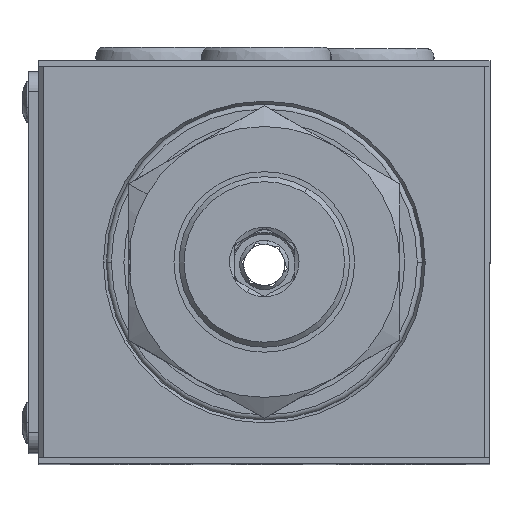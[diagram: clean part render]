
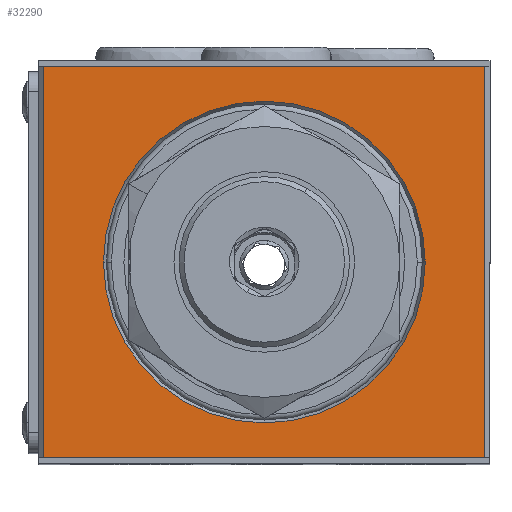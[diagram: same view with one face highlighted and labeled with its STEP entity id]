
A CAD part, top view. The second image highlights one B-rep face of the part: STEP entity #32290.
In plain terms, the highlighted planar face has unit normal (0, 0, 1).
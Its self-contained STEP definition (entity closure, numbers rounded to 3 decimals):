
#322 = VECTOR ( 'NONE', #57672, 1000. ) ;
#1422 = VERTEX_POINT ( 'NONE', #50655 ) ;
#4456 = CARTESIAN_POINT ( 'NONE',  ( 22., 19.5, 91.5 ) ) ;
#7950 = FACE_BOUND ( 'NONE', #24317, .T. ) ;
#8165 = ORIENTED_EDGE ( 'NONE', *, *, #54811, .T. ) ;
#8338 = CARTESIAN_POINT ( 'NONE',  ( 0., 0., 91.5 ) ) ;
#8591 = VERTEX_POINT ( 'NONE', #12679 ) ;
#9706 = CARTESIAN_POINT ( 'NONE',  ( -22.5, 20.1, 91.5 ) ) ;
#10013 = AXIS2_PLACEMENT_3D ( 'NONE', #8338, #43983, #26505 ) ;
#12231 = DIRECTION ( 'NONE',  ( 0., 0., -1. ) ) ;
#12679 = CARTESIAN_POINT ( 'NONE',  ( 16.039, 0., 91.5 ) ) ;
#15844 = EDGE_CURVE ( 'NONE', #8591, #28722, #18017, .T. ) ;
#16514 = VERTEX_POINT ( 'NONE', #70004 ) ;
#17664 = LINE ( 'NONE', #33093, #55873 ) ;
#18017 = CIRCLE ( 'NONE', #54365, 16.039 ) ;
#18220 = DIRECTION ( 'NONE',  ( -1., 0., 0. ) ) ;
#18744 = ORIENTED_EDGE ( 'NONE', *, *, #38258, .F. ) ;
#24317 = EDGE_LOOP ( 'NONE', ( #8165, #58916 ) ) ;
#25900 = ORIENTED_EDGE ( 'NONE', *, *, #66529, .T. ) ;
#26505 = DIRECTION ( 'NONE',  ( -1., 0., 0. ) ) ;
#28722 = VERTEX_POINT ( 'NONE', #51869 ) ;
#29251 = LINE ( 'NONE', #40612, #67533 ) ;
#32290 = ADVANCED_FACE ( 'NONE', ( #7950, #35890 ), #40392, .T. ) ;
#33093 = CARTESIAN_POINT ( 'NONE',  ( 22., 20.1, 91.5 ) ) ;
#33345 = DIRECTION ( 'NONE',  ( 0., 0., 1. ) ) ;
#33836 = DIRECTION ( 'NONE',  ( -1., 0., 0. ) ) ;
#34579 = EDGE_LOOP ( 'NONE', ( #25900, #36430, #18744, #46060 ) ) ;
#35890 = FACE_OUTER_BOUND ( 'NONE', #34579, .T. ) ;
#36430 = ORIENTED_EDGE ( 'NONE', *, *, #54459, .T. ) ;
#38258 = EDGE_CURVE ( 'NONE', #16514, #1422, #45719, .T. ) ;
#39636 = DIRECTION ( 'NONE',  ( 0., 1., 0. ) ) ;
#39923 = CARTESIAN_POINT ( 'NONE',  ( -22., 20.1, 91.5 ) ) ;
#40392 = PLANE ( 'NONE',  #67878 ) ;
#40612 = CARTESIAN_POINT ( 'NONE',  ( 40.31, 19.5, 91.5 ) ) ;
#41466 = CARTESIAN_POINT ( 'NONE',  ( -22., 19.5, 91.5 ) ) ;
#42111 = VERTEX_POINT ( 'NONE', #41466 ) ;
#43983 = DIRECTION ( 'NONE',  ( 0., 0., -1. ) ) ;
#45719 = LINE ( 'NONE', #74526, #76494 ) ;
#46060 = ORIENTED_EDGE ( 'NONE', *, *, #64902, .T. ) ;
#50655 = CARTESIAN_POINT ( 'NONE',  ( -22., -19.5, 91.5 ) ) ;
#51869 = CARTESIAN_POINT ( 'NONE',  ( -16.039, 0., 91.5 ) ) ;
#54302 = LINE ( 'NONE', #39923, #322 ) ;
#54365 = AXIS2_PLACEMENT_3D ( 'NONE', #65470, #12231, #18220 ) ;
#54459 = EDGE_CURVE ( 'NONE', #42111, #1422, #54302, .T. ) ;
#54811 = EDGE_CURVE ( 'NONE', #28722, #8591, #64548, .T. ) ;
#55873 = VECTOR ( 'NONE', #39636, 1000. ) ;
#57672 = DIRECTION ( 'NONE',  ( 0., -1., 0. ) ) ;
#58916 = ORIENTED_EDGE ( 'NONE', *, *, #15844, .T. ) ;
#60470 = VERTEX_POINT ( 'NONE', #4456 ) ;
#64548 = CIRCLE ( 'NONE', #10013, 16.039 ) ;
#64652 = DIRECTION ( 'NONE',  ( -1., 0., 0. ) ) ;
#64902 = EDGE_CURVE ( 'NONE', #16514, #60470, #17664, .T. ) ;
#65470 = CARTESIAN_POINT ( 'NONE',  ( 0., 0., 91.5 ) ) ;
#66529 = EDGE_CURVE ( 'NONE', #60470, #42111, #29251, .T. ) ;
#67533 = VECTOR ( 'NONE', #64652, 1000. ) ;
#67878 = AXIS2_PLACEMENT_3D ( 'NONE', #9706, #33345, #75367 ) ;
#70004 = CARTESIAN_POINT ( 'NONE',  ( 22., -19.5, 91.5 ) ) ;
#74526 = CARTESIAN_POINT ( 'NONE',  ( 40.31, -19.5, 91.5 ) ) ;
#75367 = DIRECTION ( 'NONE',  ( -1., 0., 0. ) ) ;
#76494 = VECTOR ( 'NONE', #33836, 1000. ) ;
